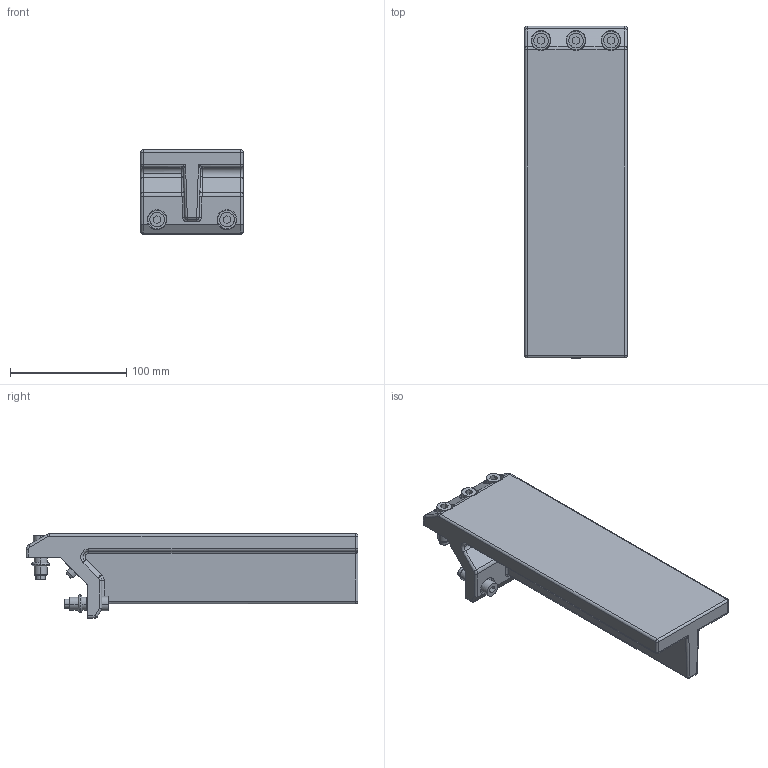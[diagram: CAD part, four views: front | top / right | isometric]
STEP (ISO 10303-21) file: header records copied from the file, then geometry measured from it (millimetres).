
FILE_DESCRIPTION(('STEP AP214'),'1');
FILE_NAME('EGT231_1698045__SEITENANB_RIP_IN_SW80.CATPart.stp','2015-09-14T13:14:17',('3D-Tool'),(' '),'Spatial InterOp 3D',' ',' ');
FILE_SCHEMA(('automotive_design'));
Length unit declared in the file: millimetre
Products named in the file (12): EGT231_1698045__SEITENANB_RIP_IN_SW80|5252141.1_Seitenanbindung Rippe innen SW80|5252141.1_Seitenanbindung Rippe innen SW80; EGT231_1698045__SEITENANB_RIP_IN_SW80|Schraube_M8x30.1_Hauptkörper|Schraube_M8x30.1_Hauptkörper; EGT231_1698045__SEITENANB_RIP_IN_SW80|Schraube_M8x30.2_Hauptkörper|Schraube_M8x30.2_Hauptkörper; EGT231_1698045__SEITENANB_RIP_IN_SW80|Schraube_M8x30.3_Hauptkörper|Schraube_M8x30.3_Hauptkörper; EGT231_1698045__SEITENANB_RIP_IN_SW80|Schraube_M8x30.4_Hauptkörper|Schraube_M8x30.4_Hauptkörper; EGT231_1698045__SEITENANB_RIP_IN_SW80|Schraube_M8x30.5_Hauptkörper|Schraube_M8x30.5_Hauptkörper; EGT231_1698045__SEITENANB_RIP_IN_SW80|Eurosert_M8.1_Hauptkörper|Eurosert_M8.1_Hauptkörper; EGT231_1698045__SEITENANB_RIP_IN_SW80|Eurosert_M8.2_Hauptkörper|Eurosert_M8.2_Hauptkörper; EGT231_1698045__SEITENANB_RIP_IN_SW80|Eurosert_M8.3_Hauptkörper|Eurosert_M8.3_Hauptkörper; EGT231_1698045__SEITENANB_RIP_IN_SW80|Eurosert_M8.4_Hauptkörper|Eurosert_M8.4_Hauptkörper; EGT231_1698045__SEITENANB_RIP_IN_SW80|Eurosert_M8.5_Hauptkörper|Eurosert_M8.5_Hauptkörper; EGT231_1698045__SEITENANB_RIP_IN_SW80|5252162.1_Zentrierstift Vario-Handlingsystem|5252162.1_Zentrierstift Vario-Handlingsystem
Bounding box: 88 x 285 x 72.5 mm (x, y, z)
Volume: 597941.2 mm3; surface area: 106999.4 mm2
Topology: 12 solids, 12 shells, 331 faces, 843 edges, 553 vertices
Faces by surface type: cylinder 146, plane 109, cone 32, torus 30, sphere 8, bspline 6
Entity records: 13037 total; most frequent: CARTESIAN_POINT 4168, ORIENTED_EDGE 1666, EDGE_CURVE 833, DIRECTION 697, VERTEX_POINT 553, B_SPLINE_CURVE_WITH_KNOTS 405, EDGE_LOOP 380, AXIS2_PLACEMENT_3D 347
